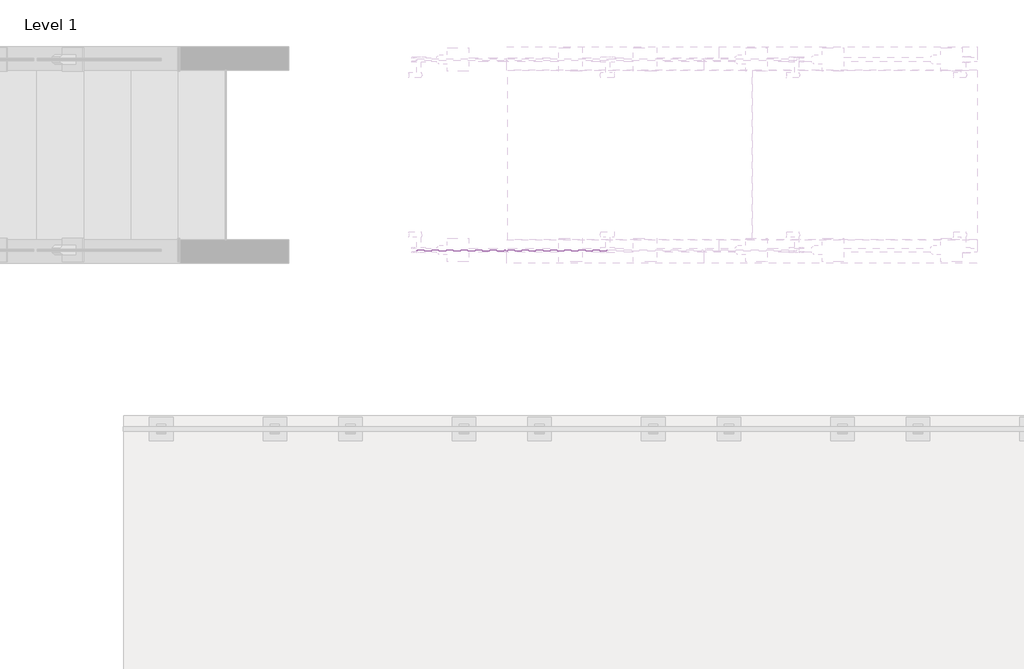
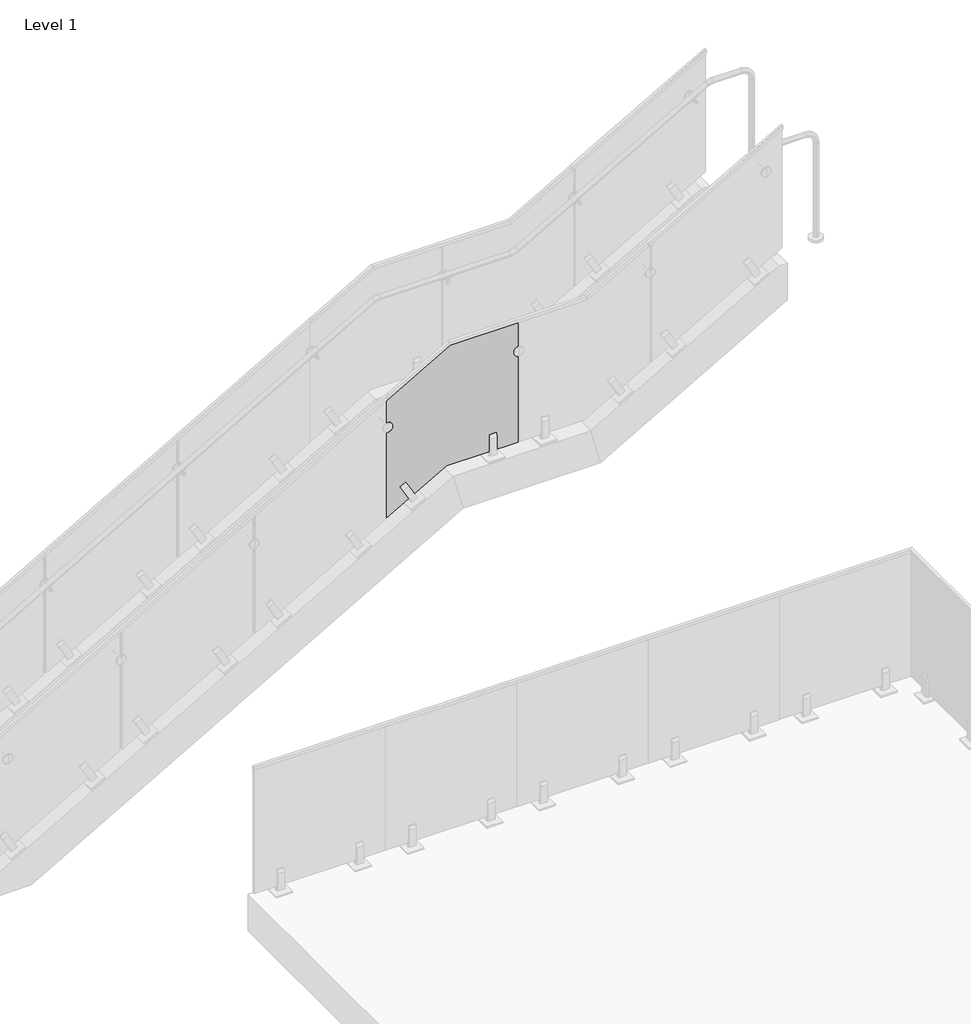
# One storey, part 13 of 17: 1 railing.
"""IFC4 building model written with IfcOpenShell, lengths in millimetres."""

import ifcopenshell
import ifcopenshell.guid

model = None  # the IFC model being written
_history = None  # IfcOwnerHistory: only IFC2X3 demands one
_inside = {}  # id of a spatial element -> (the spatial element, [elements in it])
_under = {}  # id of a project, library or spatial element -> (it, [spatial elements below it])
_declared = {}  # id of a project -> (the project, [libraries it declares])
_typed = {}  # id of a type object -> (the type object, [elements of that type])
_made_of = {}  # id of a material, layer set ... -> (it, [elements and type objects made of it])


def new_model(schema):
    """Start an empty IFC model of exactly this schema.

    Asked for "IFC4X3", IfcOpenShell would pick the latest addendum, in which some entities
    have other attributes; the version numbers below select the first issue.
    IFC2X3 requires an IfcOwnerHistory on every rooted entity: one is made here for all.
    """
    global model, _history
    if schema == "IFC4X3":
        model = ifcopenshell.file(schema_version=(4, 3, 0, 0))
    else:
        model = ifcopenshell.file(schema=schema)
    _inside.clear()
    _under.clear()
    _declared.clear()
    _typed.clear()
    _made_of.clear()
    _history = None
    if model.schema == "IFC2X3":
        org = make("IfcOrganization", Name="unknown")
        user = make(
            "IfcPersonAndOrganization",
            ThePerson=make("IfcPerson", FamilyName="unknown"),
            TheOrganization=org,
        )
        app = make(
            "IfcApplication",
            ApplicationDeveloper=org,
            Version="unknown",
            ApplicationFullName="unknown",
            ApplicationIdentifier="unknown",
        )
        _history = make(
            "IfcOwnerHistory",
            OwningUser=user,
            OwningApplication=app,
            ChangeAction="ADDED",
            CreationDate=0,
        )
    return model


def make(cls, **values):
    """One entity of the class cls with the attributes given. An attribute that is None is left unset."""
    return model.create_entity(
        cls, **{name: value for name, value in values.items() if value is not None}
    )


def rooted(cls, **values):
    """An entity with a GlobalId (a new one), such as an element, a storey or a relation."""
    return make(cls, GlobalId=ifcopenshell.guid.new(), OwnerHistory=_history, **values)


def si_unit(unit_type, name, prefix=None):
    """IfcSIUnit, for example si_unit("LENGTHUNIT", "METRE", prefix="MILLI")."""
    return make("IfcSIUnit", UnitType=unit_type, Prefix=prefix, Name=name)


def assignment(units):
    """IfcUnitAssignment: the units of a project."""
    return None if units is None else make("IfcUnitAssignment", Units=units)


def point(xyz):
    """IfcCartesianPoint."""
    return None if xyz is None else make("IfcCartesianPoint", Coordinates=xyz)


def direction(xyz):
    """IfcDirection."""
    return None if xyz is None else make("IfcDirection", DirectionRatios=xyz)


def frame(location, z_axis=None, x_axis=None):
    """IfcAxis2Placement3D, a coordinate frame: its origin and axes. An axis left out is left unset."""
    return make(
        "IfcAxis2Placement3D",
        Location=point(location),
        Axis=direction(z_axis),
        RefDirection=direction(x_axis),
    )


def origin():
    """The frame at (0, 0, 0) with its axes left unset."""
    return frame((0.0, 0.0, 0.0))


def place(relative_to, where):
    """IfcLocalPlacement: puts the frame where relative to a parent placement (None: the world)."""
    return make(
        "IfcLocalPlacement", PlacementRelTo=relative_to, RelativePlacement=where
    )


def context(
    kind, dimensions, precision=None, world=None, true_north=None, identifier=None
):
    """IfcGeometricRepresentationContext, for example the 3D "Model" context."""
    return make(
        "IfcGeometricRepresentationContext",
        ContextIdentifier=identifier,
        ContextType=kind,
        CoordinateSpaceDimension=dimensions,
        Precision=precision,
        WorldCoordinateSystem=world,
        TrueNorth=true_north,
    )


def project(units=None, contexts=None):
    """IfcProject with its units and contexts."""
    return rooted(
        "IfcProject",
        Name="project",
        RepresentationContexts=contexts,
        UnitsInContext=assignment(units),
    )


def spatial(cls, under=None, at=None, **own):
    """A site, building, storey or space (cls), placed at a placement, below another one or the project."""
    s = rooted(cls, ObjectPlacement=at, **own)
    if under is not None:
        _under.setdefault(under.id(), (under, []))[1].append(s)
    return s


def polyline(points):
    """IfcPolyline through the points."""
    return make("IfcPolyline", Points=[point(p) for p in points])


def outline(outer, holes=None, kind="AREA"):
    """IfcArbitraryClosedProfileDef: a profile drawn as a closed curve; with holes, ...WithVoids."""
    if holes is None:
        return make("IfcArbitraryClosedProfileDef", ProfileType=kind, OuterCurve=outer)
    return make(
        "IfcArbitraryProfileDefWithVoids",
        ProfileType=kind,
        OuterCurve=outer,
        InnerCurves=holes,
    )


def extrude(swept, where, along, depth):
    """IfcExtrudedAreaSolid: the profile swept, set in the frame where, extruded along a direction by depth."""
    return make(
        "IfcExtrudedAreaSolid",
        SweptArea=swept,
        Position=where,
        ExtrudedDirection=direction(along),
        Depth=depth,
    )


def shape(context_of_items, identifier, shape_type, items):
    """IfcShapeRepresentation: the items that make up one representation, for example the "Body"."""
    return make(
        "IfcShapeRepresentation",
        ContextOfItems=context_of_items,
        RepresentationIdentifier=identifier,
        RepresentationType=shape_type,
        Items=items,
    )


def source(mapping_origin, context_of_items, identifier, shape_type, items):
    """IfcRepresentationMap: a shape defined once, which mapped items show again and again."""
    return make(
        "IfcRepresentationMap",
        MappingOrigin=mapping_origin,
        MappedRepresentation=shape(context_of_items, identifier, shape_type, items),
    )


def transform(
    local_origin,
    x_axis=None,
    y_axis=None,
    z_axis=None,
    scale=None,
    scale2=None,
    scale3=None,
    uniform=True,
):
    """IfcCartesianTransformationOperator3D, or its non-uniform kind. x_axis, y_axis, z_axis: its Axis1, 2, 3."""
    if uniform:
        return make(
            "IfcCartesianTransformationOperator3D",
            Axis1=direction(x_axis),
            Axis2=direction(y_axis),
            LocalOrigin=point(local_origin),
            Scale=scale,
            Axis3=direction(z_axis),
        )
    return make(
        "IfcCartesianTransformationOperator3DnonUniform",
        Axis1=direction(x_axis),
        Axis2=direction(y_axis),
        LocalOrigin=point(local_origin),
        Scale=scale,
        Axis3=direction(z_axis),
        Scale2=scale2,
        Scale3=scale3,
    )


def mapped(mapping_source, mapping_target):
    """IfcMappedItem: shows the shape of a source again, moved by a transform."""
    return make(
        "IfcMappedItem", MappingSource=mapping_source, MappingTarget=mapping_target
    )


def made_of(thing, what):
    """Note that an element or type object is made of a material, layer set ...; save() writes the relation."""
    if what is not None:
        _made_of.setdefault(what.id(), (what, []))[1].append(thing)
    return thing


def element(
    cls,
    number,
    at=None,
    inside=None,
    cuts=None,
    type_object=None,
    material=None,
    context=None,
    identifier="Body",
    shape_type=None,
    held_by="IfcProductDefinitionShape",
    body=None,
    shapes=None,
    **own,
):
    """One element of the class cls, such as IfcWall. Its Tag is "e" and its number.

    at: its placement. inside: the storey or other place that contains it. cuts: it is an
    opening in that element (IfcRelVoidsElement). A single representation is given by context,
    identifier, shape_type and body (its items); several are given by shapes. held_by: the class
    of the entity that holds the representations. save() writes the other relations.
    """
    e = rooted(cls, Tag="e%d" % number, ObjectPlacement=at, **own)
    if body is not None:
        shapes = [shape(context, identifier, shape_type, body)]
    if shapes is not None:
        e.Representation = make(held_by, Representations=shapes)
    if inside is not None:
        _inside.setdefault(inside.id(), (inside, []))[1].append(e)
    if cuts is not None:
        rooted(
            "IfcRelVoidsElement", RelatingBuildingElement=cuts, RelatedOpeningElement=e
        )
    if type_object is not None:
        _typed.setdefault(type_object.id(), (type_object, []))[1].append(e)
    return made_of(e, material)


def aggregate(whole, parts):
    """IfcRelAggregates: a whole, such as a stair, and the parts it consists of."""
    return rooted("IfcRelAggregates", RelatingObject=whole, RelatedObjects=parts)


def save(model, path):
    """Write the relations noted so far, then the file.

    IfcRelAggregates (storeys below a building ...), IfcRelContainedInSpatialStructure (elements
    in a storey), IfcRelDefinesByType, IfcRelAssociatesMaterial and IfcRelDeclares: one each for
    every whole, place, type object, material and project.
    """
    for whole, parts in _under.values():
        aggregate(whole, parts)
    for where, things in _inside.values():
        rooted(
            "IfcRelContainedInSpatialStructure",
            RelatedElements=things,
            RelatingStructure=where,
        )
    for kind, things in _typed.values():
        rooted("IfcRelDefinesByType", RelatedObjects=things, RelatingType=kind)
    for what, things in _made_of.values():
        rooted("IfcRelAssociatesMaterial", RelatedObjects=things, RelatingMaterial=what)
    for by, libraries in _declared.values():
        rooted("IfcRelDeclares", RelatingContext=by, RelatedDefinitions=libraries)
    model.write(path)


def standard_glass_8e83f89b(model_context):
    return source(origin(), model_context, "Body", "SweptSolid", [
        extrude(outline(polyline([(-483.1849138, 1087.12), (5.0108793, 808.2061453), (5.0108793, -185.7323924), (-464.4467562, 82.4760612), (-1018.33476, 82.4760612), (-1018.33476, 1087.12), (-483.1849138, 1087.12)])), frame((33.3375, 0.0, 0.0), z_axis=(1.0, 0.0, 0.0), x_axis=(0.0, 1.0, 0.0)), (0.0, 0.0, 1.0), 9.525),
    ])


model = new_model("IFC4")

# Units and contexts
model_context = context("Model", 3, world=origin())
ifc_project = project(units=[si_unit("LENGTHUNIT", "METRE", prefix="MILLI")], contexts=[model_context])

# Site, building, storey
site = spatial("IfcSite", under=ifc_project)
building = spatial("IfcBuilding", under=site)
storey = spatial("IfcBuildingStorey", under=building, Name="Level 1", Elevation=0.0)

# Railing
placement = place(None, origin())
standard_glass_shape = standard_glass_8e83f89b(model_context)
element("IfcRailing", 1, ObjectType="Baluster-Landing-Panel-VIVA-VISIO-Lower : Standard_Glass", at=placement, inside=storey, context=model_context, shape_type="MappedRepresentation", body=[
    mapped(standard_glass_shape, transform((27378.7798564, -2463.0992549, 2177.1428571), x_axis=(0.0, 1.0, 0.0), y_axis=(-1.0, 0.0, 0.0), z_axis=(0.0, 0.0, 1.0))),
])

save(model, "model.ifc")
